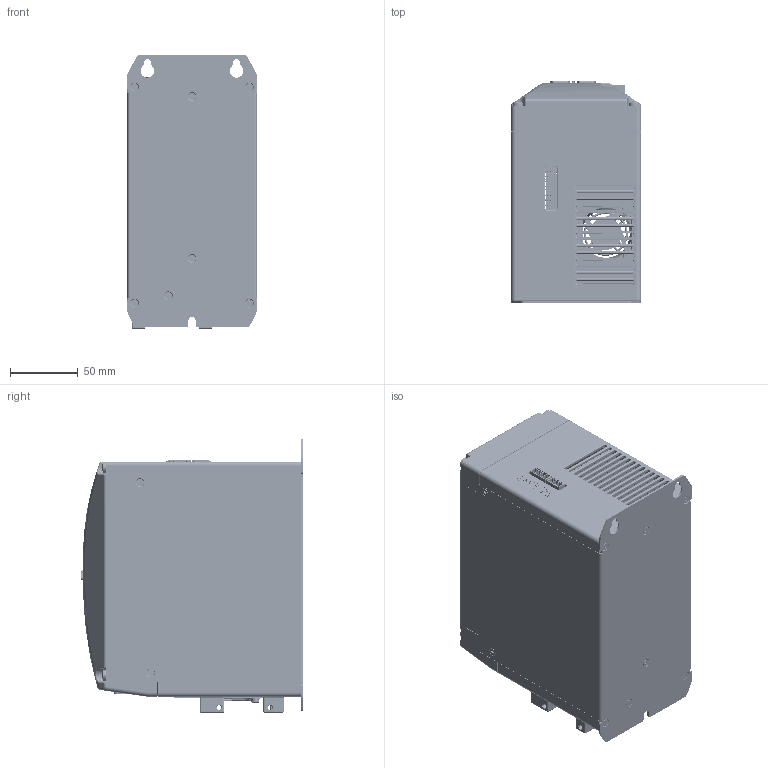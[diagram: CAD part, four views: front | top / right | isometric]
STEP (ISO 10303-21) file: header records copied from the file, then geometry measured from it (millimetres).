
FILE_DESCRIPTION((''),'2;1');
FILE_NAME('61581N-0_ASM','2022-02-28T',('lichensong'),(''),'PRO/ENGINEER BY PARAMETRIC TECHNOLOGY CORPORATION, 2010430','PRO/ENGINEER BY PARAMETRIC TECHNOLOGY CORPORATION, 2010430','');
FILE_SCHEMA(('AUTOMOTIVE_DESIGN_CC2 { 1 2 10303 214 -1 1 5 2 }'));
Products named in the file (29): 61582N-0; 61586N-0; 1804878; 1897827; 1897814; 50543N-0_ASM; 60667N-0; CONNECT-CAN0; CONNECT-CAN1; CONN-ENC; TASTO-SETUP; 1894901; INTERNETCO; 50544N-0_ASM; 50308N-0; CONTROL_ASM; 61589N-1; 61589N-2; 9GA0424G6D001; MG-40; M3X8_GB-T70-3; GB-T95_5; GB_T93_5; M5X14_GBT70-1; M4X25_GBT818; M3X30_GBT818; GB-T95_3; GB_T93_3; 61581N-0_ASM
Assembly tree (57 placements, depth 4):
  61581N-0_ASM
    61582N-0
    61586N-0
    50543N-0_ASM
      1804878
      1897827
      1897814
    CONTROL_ASM
      60667N-0
      50544N-0_ASM
        CONNECT-CAN0
        CONNECT-CAN1
        CONN-ENC
        TASTO-SETUP  x3
        1894901
        INTERNETCO  x2
      50308N-0
    61589N-1
    61589N-2
    9GA0424G6D001
    MG-40
    M3X8_GB-T70-3  x12
    GB-T95_5  x2
    GB_T93_5  x2
    M5X14_GBT70-1  x2
    M4X25_GBT818  x4
    M3X30_GBT818  x4
    GB-T95_3  x4
    GB_T93_3  x4
Bounding box: 96 x 164.81 x 203.1 mm (x, y, z)
Volume: 557314 mm3; surface area: 484794.1 mm2
Topology: 53 solids, 90 shells, 7147 faces, 18060 edges, 11445 vertices
Faces by surface type: plane 4553, cylinder 1894, torus 302, cone 220, sphere 116, bspline 62
Entity records: 262892 total; most frequent: CARTESIAN_POINT 41584, ORIENTED_EDGE 33714, DIRECTION 33645, PRESENTATION_STYLE_ASSIGNMENT 17786, EDGE_CURVE 16944, STYLED_ITEM 16932, CURVE_STYLE 16870, VECTOR 12241
